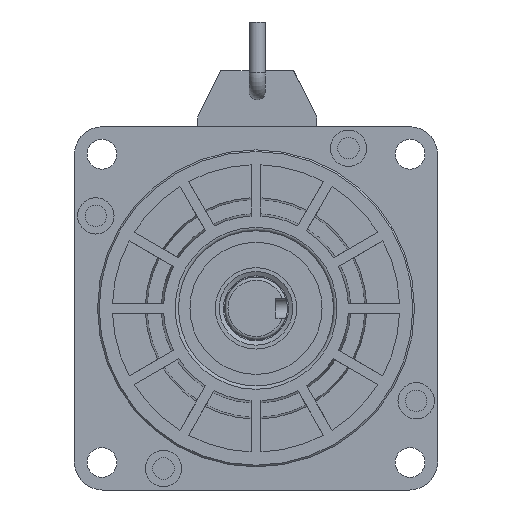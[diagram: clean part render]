
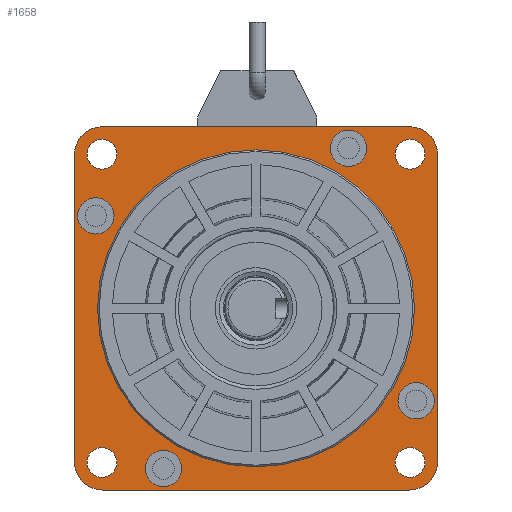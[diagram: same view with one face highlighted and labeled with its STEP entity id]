
A CAD part, front view. The second image highlights one B-rep face of the part: STEP entity #1658.
In plain terms, the highlighted planar face has unit normal (0, -1, 0).
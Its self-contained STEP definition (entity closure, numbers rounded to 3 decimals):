
#617=FACE_BOUND('',#3284,.T.);
#618=FACE_BOUND('',#3285,.T.);
#619=FACE_BOUND('',#3286,.T.);
#620=FACE_BOUND('',#3287,.T.);
#621=FACE_BOUND('',#3288,.T.);
#622=FACE_BOUND('',#3289,.T.);
#623=FACE_BOUND('',#3290,.T.);
#624=FACE_BOUND('',#3291,.T.);
#625=FACE_BOUND('',#3292,.T.);
#626=FACE_BOUND('',#3293,.T.);
#1040=PLANE('',#13429);
#1658=ADVANCED_FACE('',(#617,#618,#619,#620,#621,#622,#623,#624,#625,#626),
#1040,.T.);
#3284=EDGE_LOOP('',(#8526));
#3285=EDGE_LOOP('',(#8527));
#3286=EDGE_LOOP('',(#8528));
#3287=EDGE_LOOP('',(#8529));
#3288=EDGE_LOOP('',(#8530,#8531,#8532,#8533,#8534,#8535,#8536,#8537));
#3289=EDGE_LOOP('',(#8538));
#3290=EDGE_LOOP('',(#8539));
#3291=EDGE_LOOP('',(#8540));
#3292=EDGE_LOOP('',(#8541));
#3293=EDGE_LOOP('',(#8542));
#4391=LINE('',#20552,#5507);
#4475=LINE('',#20924,#5591);
#4476=LINE('',#20925,#5592);
#4477=LINE('',#20929,#5593);
#5507=VECTOR('',#16259,1.);
#5591=VECTOR('',#16583,1.);
#5592=VECTOR('',#16584,1.);
#5593=VECTOR('',#16587,1.);
#8526=ORIENTED_EDGE('',*,*,#11809,.T.);
#8527=ORIENTED_EDGE('',*,*,#11810,.T.);
#8528=ORIENTED_EDGE('',*,*,#11811,.T.);
#8529=ORIENTED_EDGE('',*,*,#11812,.T.);
#8530=ORIENTED_EDGE('',*,*,#11813,.T.);
#8531=ORIENTED_EDGE('',*,*,#11814,.F.);
#8532=ORIENTED_EDGE('',*,*,#11548,.T.);
#8533=ORIENTED_EDGE('',*,*,#11641,.F.);
#8534=ORIENTED_EDGE('',*,*,#11544,.T.);
#8535=ORIENTED_EDGE('',*,*,#11815,.F.);
#8536=ORIENTED_EDGE('',*,*,#11816,.T.);
#8537=ORIENTED_EDGE('',*,*,#11817,.F.);
#8538=ORIENTED_EDGE('',*,*,#11551,.T.);
#8539=ORIENTED_EDGE('',*,*,#11550,.T.);
#8540=ORIENTED_EDGE('',*,*,#11808,.F.);
#8541=ORIENTED_EDGE('',*,*,#11818,.T.);
#8542=ORIENTED_EDGE('',*,*,#11819,.T.);
#9998=VERTEX_POINT('',#20145);
#9999=VERTEX_POINT('',#20146);
#10000=VERTEX_POINT('',#20151);
#10001=VERTEX_POINT('',#20153);
#10002=VERTEX_POINT('',#20157);
#10003=VERTEX_POINT('',#20160);
#10168=VERTEX_POINT('',#20911);
#10169=VERTEX_POINT('',#20914);
#10170=VERTEX_POINT('',#20916);
#10171=VERTEX_POINT('',#20918);
#10172=VERTEX_POINT('',#20920);
#10173=VERTEX_POINT('',#20922);
#10174=VERTEX_POINT('',#20923);
#10175=VERTEX_POINT('',#20926);
#10176=VERTEX_POINT('',#20928);
#10177=VERTEX_POINT('',#20931);
#10178=VERTEX_POINT('',#20933);
#11544=EDGE_CURVE('',#9998,#9999,#12286,.T.);
#11548=EDGE_CURVE('',#10001,#10000,#12287,.T.);
#11550=EDGE_CURVE('',#10002,#10002,#12288,.T.);
#11551=EDGE_CURVE('',#10003,#10003,#12289,.T.);
#11641=EDGE_CURVE('',#9998,#10000,#4391,.T.);
#11808=EDGE_CURVE('',#10168,#10168,#12385,.T.);
#11809=EDGE_CURVE('',#10169,#10169,#12386,.T.);
#11810=EDGE_CURVE('',#10170,#10170,#12387,.T.);
#11811=EDGE_CURVE('',#10171,#10171,#12388,.T.);
#11812=EDGE_CURVE('',#10172,#10172,#12389,.T.);
#11813=EDGE_CURVE('',#10173,#10174,#12390,.T.);
#11814=EDGE_CURVE('',#10001,#10174,#4475,.T.);
#11815=EDGE_CURVE('',#10175,#9999,#4476,.T.);
#11816=EDGE_CURVE('',#10175,#10176,#12391,.T.);
#11817=EDGE_CURVE('',#10173,#10176,#4477,.T.);
#11818=EDGE_CURVE('',#10177,#10177,#12392,.T.);
#11819=EDGE_CURVE('',#10178,#10178,#12393,.T.);
#12286=CIRCLE('',#13243,8.5);
#12287=CIRCLE('',#13245,8.5);
#12288=CIRCLE('',#13247,5.5);
#12289=CIRCLE('',#13249,5.5);
#12385=CIRCLE('',#13419,48.);
#12386=CIRCLE('',#13421,4.5);
#12387=CIRCLE('',#13422,4.5);
#12388=CIRCLE('',#13423,4.5);
#12389=CIRCLE('',#13424,4.5);
#12390=CIRCLE('',#13425,8.5);
#12391=CIRCLE('',#13426,8.5);
#12392=CIRCLE('',#13427,5.5);
#12393=CIRCLE('',#13428,5.5);
#13243=AXIS2_PLACEMENT_3D('',#20144,#16088,#16089);
#13245=AXIS2_PLACEMENT_3D('',#20152,#16095,#16096);
#13247=AXIS2_PLACEMENT_3D('',#20156,#16100,#16101);
#13249=AXIS2_PLACEMENT_3D('',#20159,#16104,#16105);
#13419=AXIS2_PLACEMENT_3D('',#20910,#16569,#16570);
#13421=AXIS2_PLACEMENT_3D('',#20913,#16573,#16574);
#13422=AXIS2_PLACEMENT_3D('',#20915,#16575,#16576);
#13423=AXIS2_PLACEMENT_3D('',#20917,#16577,#16578);
#13424=AXIS2_PLACEMENT_3D('',#20919,#16579,#16580);
#13425=AXIS2_PLACEMENT_3D('',#20921,#16581,#16582);
#13426=AXIS2_PLACEMENT_3D('',#20927,#16585,#16586);
#13427=AXIS2_PLACEMENT_3D('',#20930,#16588,#16589);
#13428=AXIS2_PLACEMENT_3D('',#20932,#16590,#16591);
#13429=AXIS2_PLACEMENT_3D('',#20934,#16592,#16593);
#16088=DIRECTION('',(0.,-1.,0.));
#16089=DIRECTION('',(-1.,0.,0.));
#16095=DIRECTION('',(0.,-1.,0.));
#16096=DIRECTION('',(-1.,0.,0.));
#16100=DIRECTION('',(0.,1.,0.));
#16101=DIRECTION('',(-1.,0.,0.));
#16104=DIRECTION('',(0.,1.,0.));
#16105=DIRECTION('',(-1.,0.,0.));
#16259=DIRECTION('',(0.,0.,1.));
#16569=DIRECTION('',(0.,-1.,0.));
#16570=DIRECTION('',(-1.,0.,0.));
#16573=DIRECTION('',(0.,1.,0.));
#16574=DIRECTION('',(-1.,0.,0.));
#16575=DIRECTION('',(0.,1.,0.));
#16576=DIRECTION('',(-1.,0.,0.));
#16577=DIRECTION('',(0.,1.,0.));
#16578=DIRECTION('',(-1.,0.,0.));
#16579=DIRECTION('',(0.,1.,0.));
#16580=DIRECTION('',(-1.,0.,0.));
#16581=DIRECTION('',(0.,-1.,0.));
#16582=DIRECTION('',(-1.,0.,0.));
#16583=DIRECTION('',(1.,0.,0.));
#16584=DIRECTION('',(-1.,0.,0.));
#16585=DIRECTION('',(0.,-1.,0.));
#16586=DIRECTION('',(-1.,0.,0.));
#16587=DIRECTION('',(0.,0.,-1.));
#16588=DIRECTION('',(0.,1.,0.));
#16589=DIRECTION('',(-1.,0.,0.));
#16590=DIRECTION('',(0.,1.,0.));
#16591=DIRECTION('',(-1.,0.,0.));
#16592=DIRECTION('',(0.,-1.,0.));
#16593=DIRECTION('',(1.,0.,0.));
#20144=CARTESIAN_POINT('',(57.392,264.796,-148.75));
#20145=CARTESIAN_POINT('',(48.892,264.796,-148.75));
#20146=CARTESIAN_POINT('',(57.392,264.796,-157.25));
#20151=CARTESIAN_POINT('',(48.892,264.796,-55.75));
#20152=CARTESIAN_POINT('',(57.392,264.796,-55.75));
#20153=CARTESIAN_POINT('',(57.392,264.796,-47.25));
#20156=CARTESIAN_POINT('',(55.395,264.796,-74.25));
#20157=CARTESIAN_POINT('',(49.895,264.796,-74.25));
#20159=CARTESIAN_POINT('',(75.892,264.796,-150.747));
#20160=CARTESIAN_POINT('',(70.392,264.796,-150.747));
#20552=CARTESIAN_POINT('',(48.892,264.796,-102.25));
#20910=CARTESIAN_POINT('',(103.892,264.796,-102.25));
#20911=CARTESIAN_POINT('',(55.892,264.796,-102.25));
#20913=CARTESIAN_POINT('',(150.561,264.796,-55.581));
#20914=CARTESIAN_POINT('',(146.061,264.796,-55.581));
#20915=CARTESIAN_POINT('',(57.223,264.796,-55.581));
#20916=CARTESIAN_POINT('',(52.723,264.796,-55.581));
#20917=CARTESIAN_POINT('',(57.223,264.796,-148.919));
#20918=CARTESIAN_POINT('',(52.723,264.796,-148.919));
#20919=CARTESIAN_POINT('',(150.561,264.796,-148.919));
#20920=CARTESIAN_POINT('',(146.061,264.796,-148.919));
#20921=CARTESIAN_POINT('',(150.392,264.796,-55.75));
#20922=CARTESIAN_POINT('',(158.892,264.796,-55.75));
#20923=CARTESIAN_POINT('',(150.392,264.796,-47.25));
#20924=CARTESIAN_POINT('',(103.892,264.796,-47.25));
#20925=CARTESIAN_POINT('',(103.892,264.796,-157.25));
#20926=CARTESIAN_POINT('',(150.392,264.796,-157.25));
#20927=CARTESIAN_POINT('',(150.392,264.796,-148.75));
#20928=CARTESIAN_POINT('',(158.892,264.796,-148.75));
#20929=CARTESIAN_POINT('',(158.892,264.796,-102.25));
#20930=CARTESIAN_POINT('',(152.389,264.796,-130.25));
#20931=CARTESIAN_POINT('',(146.889,264.796,-130.25));
#20932=CARTESIAN_POINT('',(131.892,264.796,-53.753));
#20933=CARTESIAN_POINT('',(126.392,264.796,-53.753));
#20934=CARTESIAN_POINT('',(103.892,264.796,-102.25));
